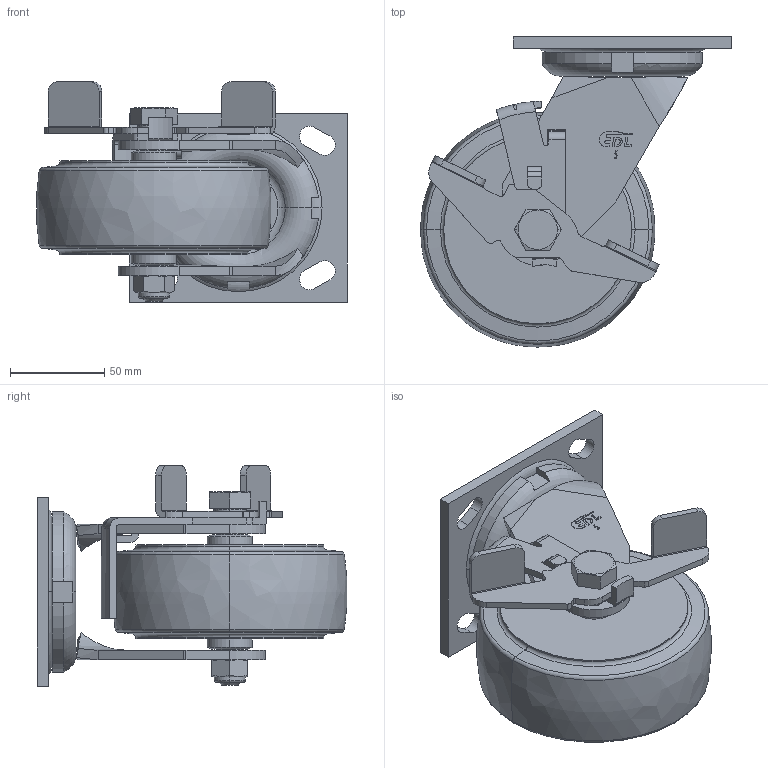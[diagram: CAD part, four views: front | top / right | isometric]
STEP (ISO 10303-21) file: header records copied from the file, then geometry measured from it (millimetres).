
FILE_DESCRIPTION((''),'2;1');
FILE_NAME('73125C-735-86_ASM','2020-12-01T',('lenovo'),(''),'PRO/ENGINEER BY PARAMETRIC TECHNOLOGY CORPORATION, 2010280','PRO/ENGINEER BY PARAMETRIC TECHNOLOGY CORPORATION, 2010280','');
FILE_SCHEMA(('CONFIG_CONTROL_DESIGN'));
Length unit declared in the file: millimetre
Products named in the file (10): 7310-201; 7310-211; 7315-353; 7315-311_ASM; 735-86; 700C-33; 7010-34; 705-15; 700-14; 73125C-735-86_ASM
Assembly tree (9 placements, depth 3):
  73125C-735-86_ASM
    7310-201
    7315-311_ASM
      7310-211
      7315-353
    735-86
    700C-33
    7010-34
    705-15
    700-14
Bounding box: 165.33 x 164.83 x 117 mm (x, y, z)
Volume: 800711 mm3; surface area: 133523.8 mm2
Topology: 9 solids, 9 shells, 531 faces, 1373 edges, 886 vertices
Faces by surface type: plane 324, cylinder 116, torus 58, cone 22, bspline 10, extrusion 1
Entity records: 16959 total; most frequent: CARTESIAN_POINT 3562, DIRECTION 2748, ORIENTED_EDGE 2746, EDGE_CURVE 1373, VECTOR 950, LINE 949, AXIS2_PLACEMENT_3D 899, VERTEX_POINT 886
